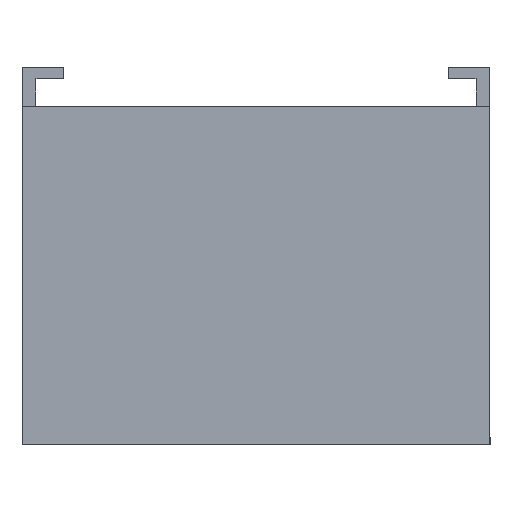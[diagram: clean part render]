
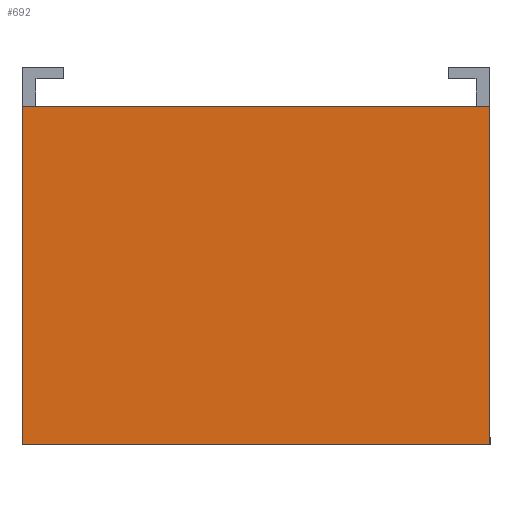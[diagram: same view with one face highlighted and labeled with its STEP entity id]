
A CAD part, left-side view. The second image highlights one B-rep face of the part: STEP entity #692.
In plain terms, the highlighted planar face has unit normal (-1, 0, 0).
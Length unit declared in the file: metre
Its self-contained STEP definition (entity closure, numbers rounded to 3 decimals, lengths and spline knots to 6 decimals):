
#692=ADVANCED_FACE('357:976',(#2039),#2040,.T.);
#2039=FACE_OUTER_BOUND('',#3589,.T.);
#2040=PLANE('',#3590);
#3589=EDGE_LOOP('',(#9517,#9518,#9519,#9520));
#3590=AXIS2_PLACEMENT_3D('',#9521,#9522,#9523);
#9517=ORIENTED_EDGE('',*,*,#12559,.F.);
#9518=ORIENTED_EDGE('',*,*,#12511,.T.);
#9519=ORIENTED_EDGE('',*,*,#12557,.T.);
#9520=ORIENTED_EDGE('',*,*,#12560,.F.);
#9521=CARTESIAN_POINT('',(-0.043,0.01675,-0.0135));
#9522=DIRECTION('',(-1.0,0.0,0.0));
#9523=DIRECTION('',(0.0,-1.0,0.));
#12511=EDGE_CURVE('357:1969',#15304,#15302,#15305,.T.);
#12557=EDGE_CURVE('357:2881',#15302,#15370,#15373,.T.);
#12559=EDGE_CURVE('357:2065',#15304,#15375,#15376,.T.);
#12560=EDGE_CURVE('357:1894',#15375,#15370,#15377,.T.);
#15302=VERTEX_POINT('',#19734);
#15304=VERTEX_POINT('',#19737);
#15305=LINE('',#19738,#19739);
#15370=VERTEX_POINT('',#19848);
#15373=LINE('',#19852,#19853);
#15375=VERTEX_POINT('',#19856);
#15376=LINE('',#19857,#19858);
#15377=LINE('',#19859,#19860);
#19734=CARTESIAN_POINT('',(-0.043,-0.01675,-0.0135));
#19737=CARTESIAN_POINT('',(-0.043,0.01675,-0.0135));
#19738=CARTESIAN_POINT('',(-0.043,0.01675,-0.0135));
#19739=VECTOR('',#23789,0.0335);
#19848=CARTESIAN_POINT('',(-0.043,-0.01675,0.0107));
#19852=CARTESIAN_POINT('',(-0.043,-0.01675,-0.0135));
#19853=VECTOR('',#23835,0.0242);
#19856=CARTESIAN_POINT('',(-0.043,0.01675,0.0107));
#19857=CARTESIAN_POINT('',(-0.043,0.01675,-0.0135));
#19858=VECTOR('',#23837,0.0242);
#19859=CARTESIAN_POINT('',(-0.043,0.01675,0.0107));
#19860=VECTOR('',#23838,0.0335);
#23789=DIRECTION('',(0.0,-1.0,0.));
#23835=DIRECTION('',(0.0,0.,1.0));
#23837=DIRECTION('',(0.0,0.,1.0));
#23838=DIRECTION('',(0.0,-1.0,0.));
